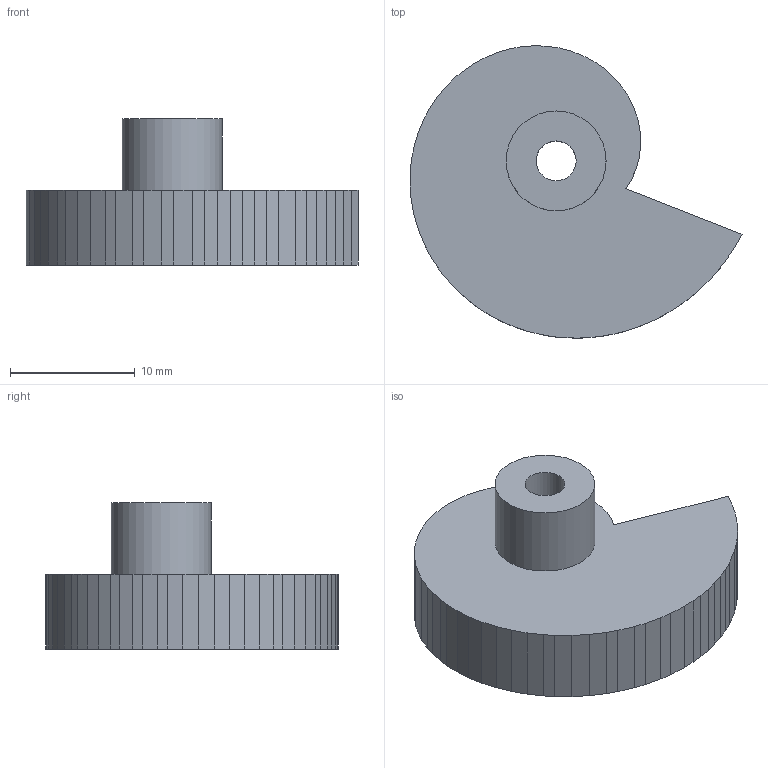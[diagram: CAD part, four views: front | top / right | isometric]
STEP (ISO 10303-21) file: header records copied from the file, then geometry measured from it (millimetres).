
FILE_DESCRIPTION(('Open CASCADE Model'),'2;1');
FILE_NAME('Open CASCADE Shape Model','2026-10-12T22:10:16',('Author'),( 'Open CASCADE'),'Open CASCADE STEP processor 7.9','Open CASCADE 7.9' ,'Unknown');
FILE_SCHEMA(('AUTOMOTIVE_DESIGN { 1 0 10303 214 1 1 1 1 }'));
Length unit declared in the file: millimetre
Products named in the file (1): Open CASCADE STEP translator 7.9 13
Bounding box: 26.59 x 23.42 x 11.7 mm (x, y, z)
Volume: 2626.5 mm3; surface area: 1535.3 mm2
Topology: 1 solids, 1 shells, 73 faces, 210 edges, 140 vertices
Faces by surface type: plane 71, cylinder 2
Full cylindrical faces by diameter (mm): 3.2 x1, 8 x1
Entity records: 5092 total; most frequent: CARTESIAN_POINT 844, DIRECTION 782, LINE 622, VECTOR 622, ORIENTED_EDGE 420, PCURVE 420, DEFINITIONAL_REPRESENTATION 420, EDGE_CURVE 210
